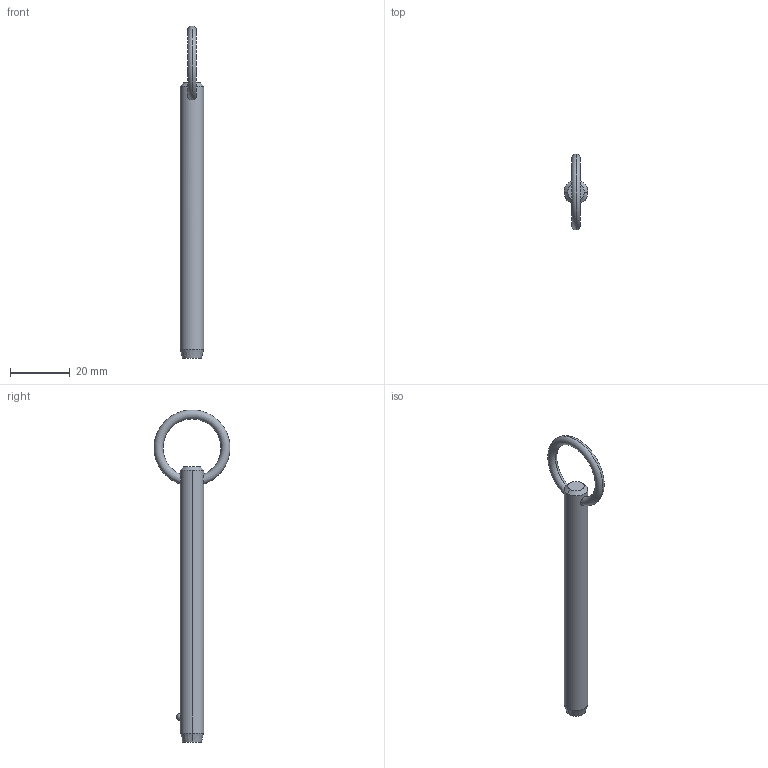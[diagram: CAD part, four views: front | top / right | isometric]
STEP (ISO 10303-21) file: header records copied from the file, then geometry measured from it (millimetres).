
FILE_DESCRIPTION (( 'STEP AP203' ), '1' );
FILE_NAME ('P1250.031-300.step', '2019-07-29T19:52:57', ( '' ), ( '' ), 'SwSTEP 2.0', 'SolidWorks 2017', '' );
FILE_SCHEMA (( 'CONFIG_CONTROL_DESIGN' ));
Length unit declared in the file: millimetre
Products named in the file (1): P1250.031-300
Bounding box: 7.93 x 25.36 x 111.11 mm (x, y, z)
Volume: 4947.8 mm3; surface area: 2929.1 mm2
Topology: 1 solids, 1 shells, 12 faces, 28 edges, 17 vertices
Faces by surface type: cone 4, torus 2, sphere 2, cylinder 2, plane 2
Entity records: 509 total; most frequent: CARTESIAN_POINT 176, DIRECTION 56, ORIENTED_EDGE 48, AXIS2_PLACEMENT_3D 25, EDGE_CURVE 24, EDGE_LOOP 15, VERTEX_POINT 15, FACE_OUTER_BOUND 12
